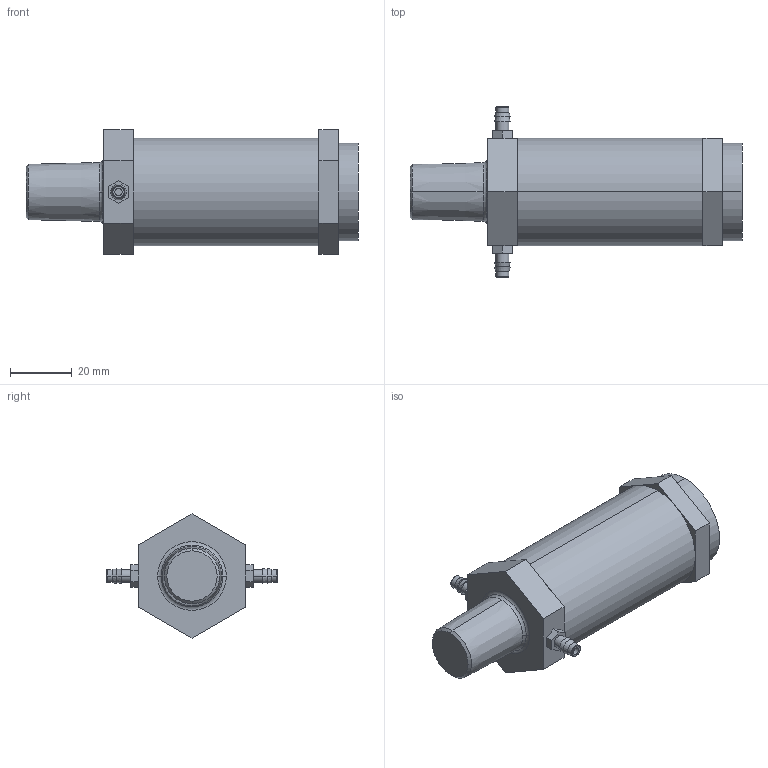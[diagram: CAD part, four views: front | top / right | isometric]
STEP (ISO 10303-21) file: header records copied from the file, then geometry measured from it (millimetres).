
FILE_DESCRIPTION((''),'2;1');
FILE_NAME('XDR3_ASM','2017-08-24T',('jennifer.elliott'),('CenterLine (Windsor) Ltd - Automation Components Division'),'PRO/ENGINEER BY PARAMETRIC TECHNOLOGY CORPORATION, 2015030','PRO/ENGINEER BY PARAMETRIC TECHNOLOGY CORPORATION, 2015030','');
FILE_SCHEMA(('AUTOMOTIVE_DESIGN { 1 0 10303 214 1 1 1 1 }'));
Length unit declared in the file: inch
Products named in the file (7): PRT1019; PRT1020; PRT1021; PRT1022; PRT1023; PRT1024; XDR3_ASM
Assembly tree (6 placements, depth 2):
  XDR3_ASM
    PRT1019
    PRT1020
    PRT1021
    PRT1022
    PRT1023
    PRT1024
Bounding box: 107.82 x 55.55 x 40.33 mm (x, y, z)
Volume: 86765.7 mm3; surface area: 18897.1 mm2
Topology: 6 solids, 6 shells, 83 faces, 177 edges, 113 vertices
Faces by surface type: plane 43, cylinder 16, torus 12, cone 12
Entity records: 2702 total; most frequent: DIRECTION 446, CARTESIAN_POINT 405, ORIENTED_EDGE 354, EDGE_CURVE 177, AXIS2_PLACEMENT_3D 173, VERTEX_POINT 113, VECTOR 100, LINE 100
